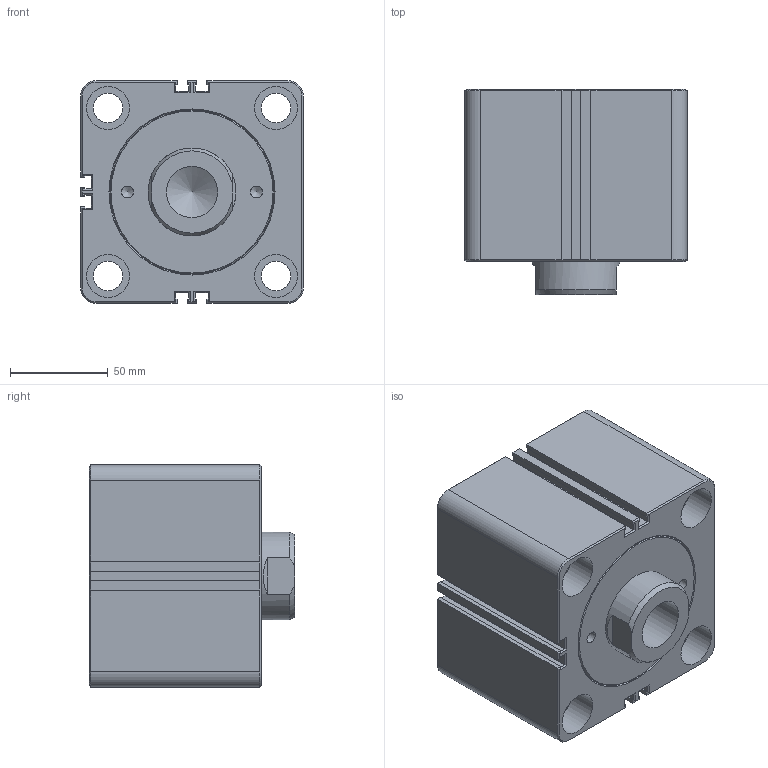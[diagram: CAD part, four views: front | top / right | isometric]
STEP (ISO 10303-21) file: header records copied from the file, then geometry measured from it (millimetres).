
FILE_DESCRIPTION(/* description */ ('Unknown'),/* implementation_level */ '2;1');
FILE_NAME(/* name */ 'HTM70-SDMB80X10N',/* time_stamp */ '2022-08-31T05:47:15+08:00',/* author */ ('Unknown'),/* organization */ ('Unknown'),/* preprocessor_version */ 'ST-DEVELOPER v16.7',/* originating_system */ 'DEX',/* authorisation */ $);
FILE_SCHEMA (('AUTOMOTIVE_DESIGN {1 0 10303 214 3 1 1}'));
Length unit declared in the file: millimetre
Products named in the file (1): HTM70-SDMB80X10N
Bounding box: 114 x 105 x 114 mm (x, y, z)
Volume: 1035389.1 mm3; surface area: 96745.6 mm2
Topology: 1 solids, 1 shells, 281 faces, 636 edges, 375 vertices
Faces by surface type: plane 180, cone 38, bspline 36, cylinder 27
Full cylindrical faces by diameter (mm): 6 x1, 6.1 x2, 7 x2, 15 x6, 16.5 x2, 22 x8, 26.211 x1, 45 x1
Entity records: 9649 total; most frequent: CARTESIAN_POINT 1869, ORIENTED_EDGE 1162, DIRECTION 1100, EDGE_CURVE 581, LINE 402, VECTOR 402, VERTEX_POINT 358, AXIS2_PLACEMENT_3D 349
